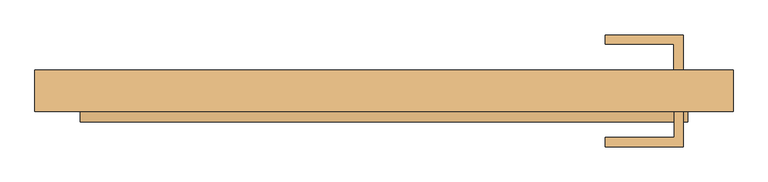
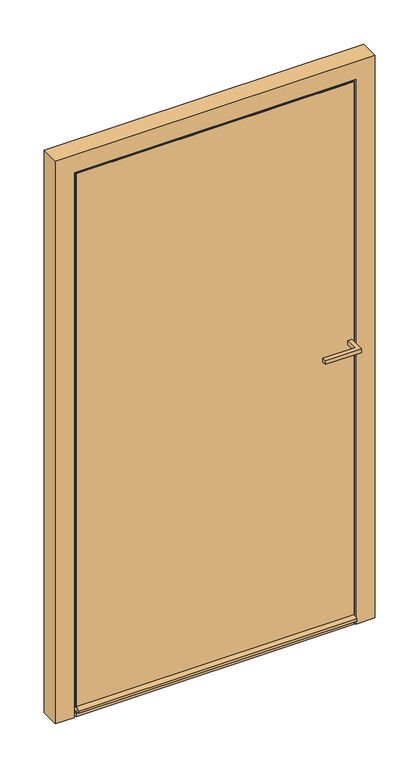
"""IFC4 building model written with IfcOpenShell, lengths in millimetres: door geometry, Reynaers_CS 77_Door_Panel_Inward Opening_Single Vent_Double Sided : Reynaers_CS 77_Door_Panel_Inward Opening_Single Vent_Double Sided."""

from ifc_helpers import new_model, si_unit, point, frame, frame_2d, origin, place, context, project, spatial, polyline, circle_curve, trimmed, segment, composite_curve, outline, extrude, faceted_brep, source, transform, mapped, element, save


def door_e801cc89(model_context):
    return source(origin(), model_context, "Body", "SolidModel", [
        extrude(outline(polyline([(488.7934348, -42.5), (488.7934348, -100.0), (361.2934348, -100.0), (361.2934348, -85.0), (473.7934348, -85.0), (473.7934348, -42.5), (488.7934348, -42.5)])), frame((0.0, 0.0, 1062.5), z_axis=(0.0, 0.0, 1.0), x_axis=(1.0, 0.0, 0.0)), (0.0, 0.0, 1.0), 15.0),
        extrude(outline(polyline([(488.5, 25.5), (473.5, 25.5), (473.5, 68.0), (361.0, 68.0), (361.0, 83.0), (488.5, 83.0), (488.5, 25.5)])), frame((0.0, 0.0, 1062.5), z_axis=(0.0, 0.0, 1.0), x_axis=(1.0, 0.0, 0.0)), (0.0, 0.0, 1.0), 15.0),
        extrude(outline(polyline([(496.0, -42.5), (-496.0, -42.5), (-496.0, -39.5), (496.0, -39.5), (496.0, -42.5)])), frame((0.0, 0.0, 37.0), z_axis=(0.0, 0.0, 1.0), x_axis=(1.0, 0.0, 0.0)), (0.0, 0.0, 1.0), 2009.0),
        extrude(outline(polyline([(521.5, -4.5), (-522.0, -4.5), (-522.0, -1.5), (521.5, -1.5), (521.5, -4.5)])), frame((0.0, 0.0, 10.5), z_axis=(0.0, 0.0, 1.0), x_axis=(1.0, 0.0, 0.0)), (0.0, 0.0, 1.0), 2061.5),
        extrude(outline(polyline([(439.0, -4.5), (439.0, -39.5), (-439.0, -39.5), (-439.0, -4.5), (439.0, -4.5)])), frame((0.0, 0.0, 93.5), z_axis=(0.0, 0.0, 1.0), x_axis=(1.0, 0.0, 0.0)), (0.0, 0.0, 1.0), 1895.5),
        faceted_brep([(444.0, 22.5, 1994.0), (444.0, 22.5, 88.5), (444.0, -39.1, 88.5), (444.0, -39.1, 1994.0), (496.0, -39.1, 2046.0), (-496.0, -39.1, 2046.0), (-496.0, -39.1, 36.5), (496.0, -39.1, 36.5), (-444.0, -39.1, 1994.0), (-444.0, -39.1, 88.5), (-444.0, 22.5, 88.5), (-522.0, 22.5, 2072.0), (522.0, 22.5, 2072.0), (522.0, 22.5, 10.5), (-522.0, 22.5, 10.5), (-444.0, 22.5, 1994.0), (522.0, 16.7, 2072.0), (522.0, 16.7, 10.5), (-522.0, 16.7, 10.5), (-522.0, 16.7, 2072.0), (-507.0, 16.7, 2057.0), (507.0, 16.7, 2057.0), (507.0, 16.7, 25.5), (-507.0, 16.7, 25.5), (-507.0, -33.7, 25.5), (-507.0, -33.7, 2057.0), (507.0, -33.7, 25.5), (507.0, -33.7, 2057.0), (-496.0, -33.7, 2046.0), (496.0, -33.7, 2046.0), (496.0, -33.7, 36.5), (-496.0, -33.7, 36.5)], [[[0, 1, 2, 3]], [[4, 5, 6, 7], [8, 3, 2, 9]], [[1, 10, 9, 2]], [[11, 12, 13, 14], [0, 15, 10, 1]], [[16, 17, 13, 12]], [[17, 18, 14, 13]], [[16, 19, 18, 17], [20, 21, 22, 23]], [[10, 15, 8, 9]], [[18, 19, 11, 14]], [[24, 25, 20, 23]], [[26, 24, 23, 22]], [[27, 26, 22, 21]], [[27, 25, 24, 26], [28, 29, 30, 31]], [[4, 7, 30, 29]], [[7, 6, 31, 30]], [[6, 5, 28, 31]], [[15, 0, 3, 8]], [[19, 16, 12, 11]], [[25, 27, 21, 20]], [[5, 4, 29, 28]]]),
        faceted_brep([(-502.0, -38.7, 0.0), (-502.0, -42.5, 0.0), (-570.0, -42.5, 0.0), (-570.0, 25.5, 0.0), (-528.0, 25.5, 0.0), (-528.0, 16.7, 0.0), (-517.0, 16.7, 0.0), (-517.0, -38.7, 0.0), (-517.0, -38.7, 2067.0), (517.0, -38.7, 2067.0), (517.0, -38.7, 0.0), (502.0, -38.7, 0.0), (502.0, -38.7, 2052.0), (-502.0, -38.7, 2052.0), (-517.0, 16.7, 2067.0), (-528.0, 16.7, 2078.0), (528.0, 16.7, 2078.0), (528.0, 16.7, 0.0), (517.0, 16.7, 0.0), (517.0, 16.7, 2067.0), (-528.0, 25.5, 2078.0), (-570.0, 25.5, 2120.0), (570.0, 25.5, 2120.0), (570.0, 25.5, 0.0), (528.0, 25.5, 0.0), (528.0, 25.5, 2078.0), (-570.0, -42.5, 2120.0), (-502.0, -42.5, 2052.0), (502.0, -42.5, 2052.0), (502.0, -42.5, 0.0), (570.0, -42.5, 0.0), (570.0, -42.5, 2120.0)], [[[0, 1, 2, 3, 4, 5, 6, 7]], [[7, 8, 9, 10, 11, 12, 13, 0]], [[6, 14, 8, 7]], [[5, 15, 16, 17, 18, 19, 14, 6]], [[4, 20, 15, 5]], [[3, 21, 22, 23, 24, 25, 20, 4]], [[2, 26, 21, 3]], [[1, 27, 28, 29, 30, 31, 26, 2]], [[0, 13, 27, 1]], [[12, 11, 29, 28]], [[11, 10, 18, 17, 24, 23, 30, 29]], [[19, 18, 10, 9]], [[31, 30, 23, 22]], [[25, 24, 17, 16]], [[26, 31, 22, 21]], [[13, 12, 28, 27]], [[14, 19, 9, 8]], [[20, 25, 16, 15]]]),
        extrude(outline(polyline([(25.5, 1.9998842), (25.5, 1.0), (-42.5, 1.0), (-42.5, 13.9596181), (-34.7418048, 19.3919648), (-28.5392099, 12.0), (16.5, 12.0), (16.5, 2.4715542), (25.5, 1.9998842)])), frame((-496.0, 0.0, 0.0), z_axis=(1.0, 0.0, 0.0), x_axis=(0.0, 1.0, 0.0)), (0.0, 0.0, 1.0), 992.0),
        extrude(outline(composite_curve([segment(polyline([(-42.5, 36.8999932), (-33.7, 34.5420403), (-33.7, 24.4999932), (-23.1220903, 24.4999932), (-23.1220903, 23.4566753)]), True, "CONTINUOUS"), segment(trimmed(circle_curve(frame_2d((-18.2237753, 13.6442063)), 10.9671344), [point((-23.1220903, 23.4566753))], [point((-26.5318662, 20.8033727))], True, "CARTESIAN"), True, "CONTINUOUS"), segment(trimmed(circle_curve(frame_2d((-33.8621384, 25.7049218)), 8.8180539), [point((-26.5318662, 20.8033727))], [point((-31.3243396, 17.259944))], False, "CARTESIAN"), True, "CONTINUOUS"), segment(trimmed(circle_curve(frame_2d((-32.1934432, 20.5338193)), 3.3872704), [point((-31.3243396, 17.259944))], [point((-32.5709002, 23.8999932))], False, "CARTESIAN"), True, "CONTINUOUS"), segment(polyline([(-32.5709002, 23.8999932), (-59.5, 23.8999932), (-59.5, 32.4999932), (-42.5, 38.6874872), (-42.5, 36.8999932)]), True, "CONTINUOUS")], self_intersect=False)), frame((-496.0, 0.0, 0.0), z_axis=(1.0, 0.0, 0.0), x_axis=(0.0, 1.0, 0.0)), (0.0, 0.0, 1.0), 992.0),
    ])


if __name__ == "__main__":
    model = new_model("IFC4")
    model_context = context("Model", 3, world=origin())
    ifc_project = project(units=[si_unit("LENGTHUNIT", "METRE", prefix="MILLI")], contexts=[model_context])
    site = spatial("IfcSite", under=ifc_project)
    building = spatial("IfcBuilding", under=site)
    placement = place(None, origin())
    door_shape = door_e801cc89(model_context)
    element("IfcDoor", 1, ObjectType="Reynaers_CS 77_Door_Panel_Inward Opening_Single Vent_Double Sided : Reynaers_CS 77_Door_Panel_Inward Opening_Single Vent_Double Sided", at=placement, inside=building, context=model_context, shape_type="MappedRepresentation", body=[
        mapped(door_shape, transform((0.0, 0.0, 0.0), x_axis=(1.0, 0.0, 0.0), y_axis=(0.0, 1.0, 0.0), z_axis=(0.0, 0.0, 1.0))),
    ])
    save(model, "model.ifc")
